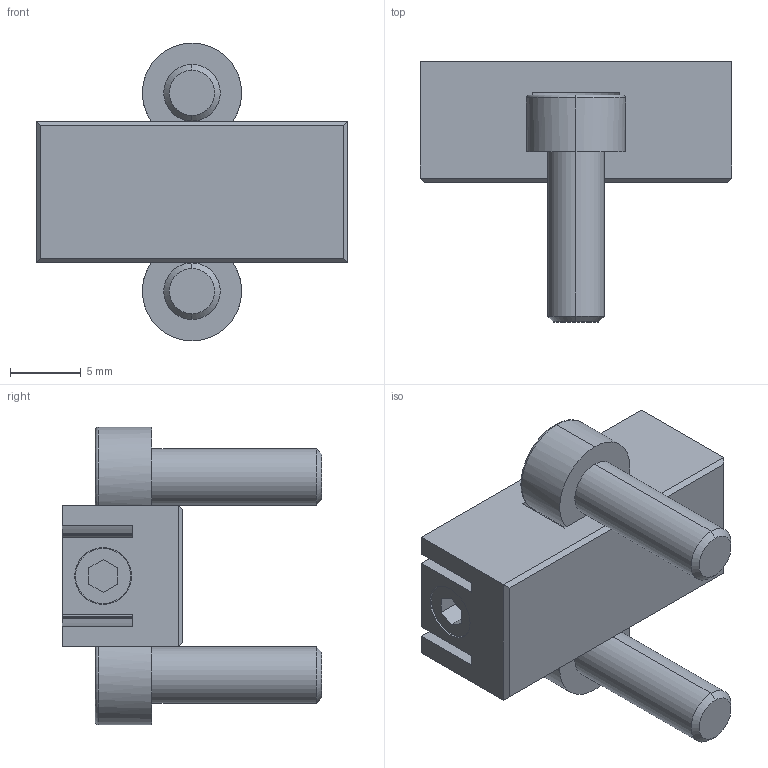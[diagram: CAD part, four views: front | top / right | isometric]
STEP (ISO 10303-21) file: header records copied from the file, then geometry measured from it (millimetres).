
FILE_DESCRIPTION (( 'STEP AP203' ), '1' );
FILE_NAME ('EB-MINI_3d.STEP', '2015-03-19T08:22:01', ( 'Balzi' ), ( '' ), 'SwSTEP 2.0', 'SolidWorks 2012', '' );
FILE_SCHEMA (( 'CONFIG_CONTROL_DESIGN' ));
Length unit declared in the file: millimetre
Products named in the file (1): EB-MINI_3d
Bounding box: 22 x 18.35 x 21 mm (x, y, z)
Volume: 2177.6 mm3; surface area: 2382.5 mm2
Topology: 1 solids, 1 shells, 120 faces, 298 edges, 186 vertices
Faces by surface type: plane 74, cylinder 34, cone 8, torus 4
Entity records: 3595 total; most frequent: DIRECTION 632, CARTESIAN_POINT 601, ORIENTED_EDGE 588, EDGE_CURVE 294, AXIS2_PLACEMENT_3D 217, VECTOR 198, LINE 198, VERTEX_POINT 186
